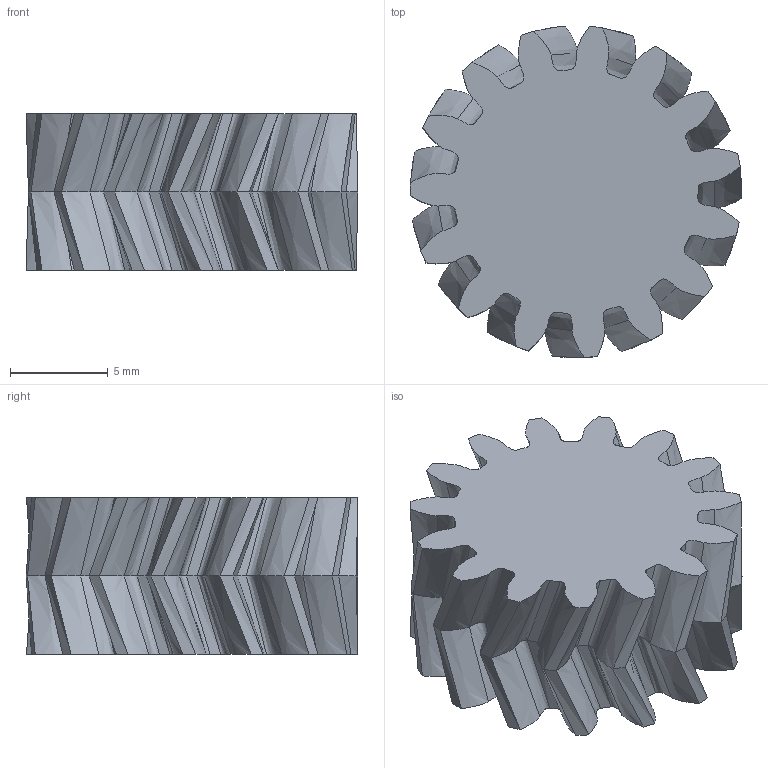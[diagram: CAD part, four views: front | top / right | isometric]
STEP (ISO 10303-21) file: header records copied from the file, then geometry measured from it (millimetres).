
FILE_DESCRIPTION(('FreeCAD Model'),'2;1');
FILE_NAME('C:/Users/germt/Documents/t-flex_models/колёса_130мм/Редуктор 6_2х_ступенчатый/Gear_M1_15T_shevron_20deg.step', '2021-04-18T12:49:19',('Author'),(''), 'Open CASCADE STEP processor 7.3','FreeCAD','Unknown');
FILE_SCHEMA(('AUTOMOTIVE_DESIGN { 1 0 10303 214 1 1 1 1 }'));
Length unit declared in the file: millimetre
Products named in the file (1): involutegear
Bounding box: 16.99 x 16.97 x 8 mm (x, y, z)
Volume: 1371.1 mm3; surface area: 1126.3 mm2
Topology: 1 solids, 1 shells, 182 faces, 450 edges, 270 vertices
Faces by surface type: bspline 182
Entity records: 17145 total; most frequent: CARTESIAN_POINT 11169, B_SPLINE_CURVE_WITH_KNOTS 1350, ORIENTED_EDGE 900, PCURVE 900, DEFINITIONAL_REPRESENTATION 900, EDGE_CURVE 450, SURFACE_CURVE 450, VERTEX_POINT 270
